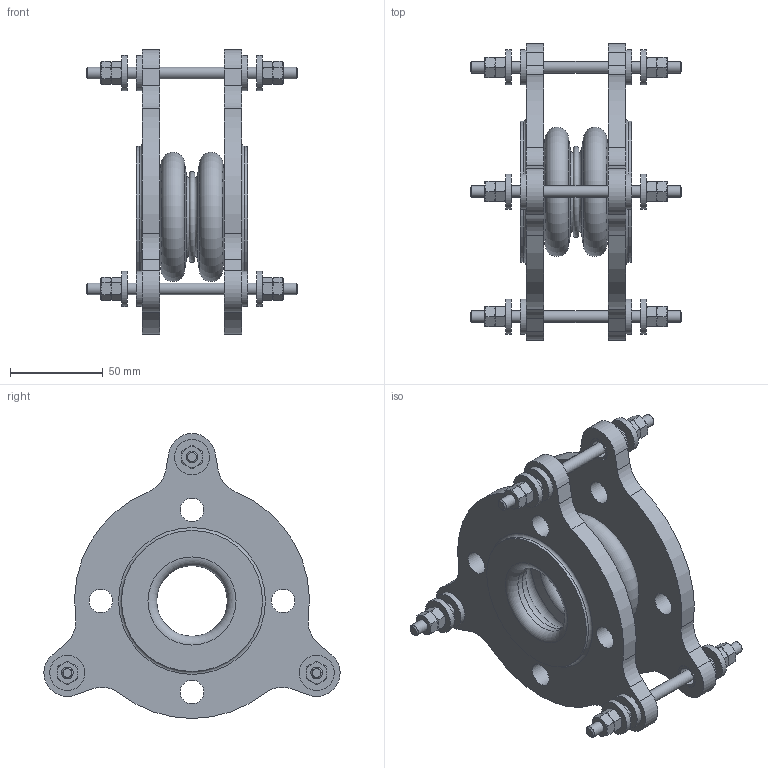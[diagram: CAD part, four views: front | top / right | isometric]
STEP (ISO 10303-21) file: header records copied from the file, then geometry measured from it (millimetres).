
FILE_DESCRIPTION(/* description */ (''),/* implementation_level */ '2;1');
FILE_NAME(/* name */ 'C:\Users\rramoutar\Desktop\802\802 1.5IDx2.375FF.stp',/* time_stamp */ '2016-04-24T12:11:32-04:00',/* author */ ('rramoutar'),/* organization */ ('Mason Industries Inc.'),/* preprocessor_version */ 'ST-DEVELOPER v15.6',/* originating_system */ 'Autodesk Inventor 2015',/* authorisation */ '');
FILE_SCHEMA (('CONFIG_CONTROL_DESIGN'));
Length unit declared in the file: inch
Products named in the file (1): 802 1.5IDx2.375FF
Bounding box: 114.3 x 160.13 x 153.99 mm (x, y, z)
Volume: 306825.4 mm3; surface area: 121825.1 mm2
Topology: 5 solids, 11 shells, 434 faces, 914 edges, 536 vertices
Faces by surface type: cone 182, plane 140, cylinder 91, torus 21
Full cylindrical faces by diameter (mm): 6.35 x15, 7.938 x6, 9.922 x6, 12.303 x6, 12.7 x14, 19.05 x12, 38.1 x2, 41.275 x2, 42.862 x2, 76.2 x2
Entity records: 10700 total; most frequent: CARTESIAN_POINT 2282, DIRECTION 1686, ORIENTED_EDGE 1524, AXIS2_PLACEMENT_3D 777, EDGE_CURVE 762, EDGE_LOOP 637, VERTEX_POINT 509, FACE_OUTER_BOUND 434
